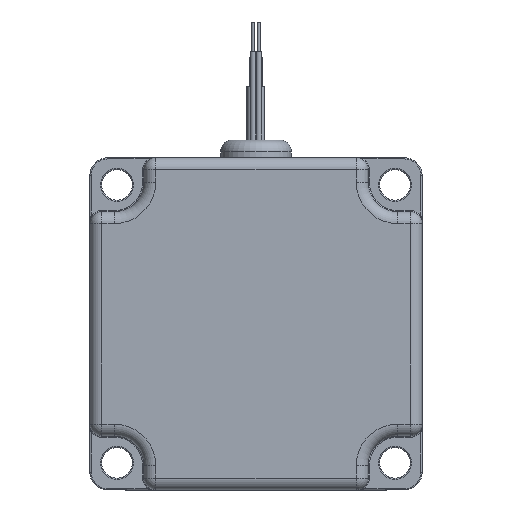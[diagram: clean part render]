
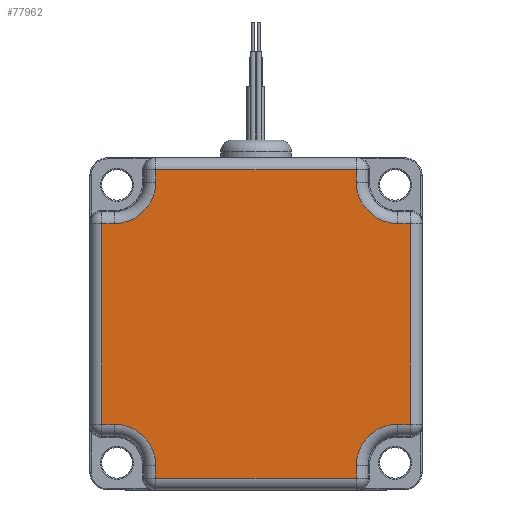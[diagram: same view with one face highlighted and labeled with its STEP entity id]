
A CAD part, front view. The second image highlights one B-rep face of the part: STEP entity #77962.
In plain terms, the highlighted planar face has unit normal (0, -1, 0).
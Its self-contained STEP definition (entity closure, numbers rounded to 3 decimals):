
#1239 = CARTESIAN_POINT ( 'NONE',  ( 24., -40., 24. ) ) ;
#2215 = CARTESIAN_POINT ( 'NONE',  ( -24., -40., 24. ) ) ;
#3699 = VERTEX_POINT ( 'NONE', #106134 ) ;
#3766 = CARTESIAN_POINT ( 'NONE',  ( -24., -40., 17. ) ) ;
#4457 = DIRECTION ( 'NONE',  ( 0., 0., -1. ) ) ;
#6203 = ORIENTED_EDGE ( 'NONE', *, *, #22728, .T. ) ;
#8300 = CARTESIAN_POINT ( 'NONE',  ( -17., -40., -26.15 ) ) ;
#8965 = LINE ( 'NONE', #46673, #77536 ) ;
#9306 = CARTESIAN_POINT ( 'NONE',  ( 17., -40., -24. ) ) ;
#10934 = VERTEX_POINT ( 'NONE', #101563 ) ;
#11448 = ORIENTED_EDGE ( 'NONE', *, *, #32578, .T. ) ;
#12966 = DIRECTION ( 'NONE',  ( 0., 0., -1. ) ) ;
#13184 = ORIENTED_EDGE ( 'NONE', *, *, #59783, .T. ) ;
#13200 = CARTESIAN_POINT ( 'NONE',  ( 0., -40., 17. ) ) ;
#13591 = ORIENTED_EDGE ( 'NONE', *, *, #84511, .T. ) ;
#20584 = VECTOR ( 'NONE', #37488, 1000. ) ;
#20714 = LINE ( 'NONE', #29400, #20584 ) ;
#21165 = VERTEX_POINT ( 'NONE', #50003 ) ;
#21523 = ORIENTED_EDGE ( 'NONE', *, *, #30563, .T. ) ;
#21823 = VERTEX_POINT ( 'NONE', #115056 ) ;
#22587 = CARTESIAN_POINT ( 'NONE',  ( 17., -40., 26.15 ) ) ;
#22612 = CARTESIAN_POINT ( 'NONE',  ( -26.15, -40., -19. ) ) ;
#22728 = EDGE_CURVE ( 'NONE', #21823, #84751, #40372, .T. ) ;
#23062 = VECTOR ( 'NONE', #38076, 1000. ) ;
#24218 = LINE ( 'NONE', #108293, #74361 ) ;
#24456 = ORIENTED_EDGE ( 'NONE', *, *, #64891, .T. ) ;
#24459 = LINE ( 'NONE', #22612, #94677 ) ;
#24666 = ORIENTED_EDGE ( 'NONE', *, *, #103707, .T. ) ;
#24766 = CARTESIAN_POINT ( 'NONE',  ( 0., -40., 26.15 ) ) ;
#25653 = DIRECTION ( 'NONE',  ( 1., 0., 0. ) ) ;
#25832 = VERTEX_POINT ( 'NONE', #32490 ) ;
#26281 = VERTEX_POINT ( 'NONE', #29135 ) ;
#26318 = VERTEX_POINT ( 'NONE', #3766 ) ;
#26774 = LINE ( 'NONE', #64456, #88499 ) ;
#29135 = CARTESIAN_POINT ( 'NONE',  ( -24., -40., -17. ) ) ;
#29400 = CARTESIAN_POINT ( 'NONE',  ( -28.15, -40., 17. ) ) ;
#29911 = EDGE_CURVE ( 'NONE', #90333, #25832, #8965, .T. ) ;
#30563 = EDGE_CURVE ( 'NONE', #52678, #54205, #82205, .T. ) ;
#31050 = DIRECTION ( 'NONE',  ( 0., 0., 1. ) ) ;
#32490 = CARTESIAN_POINT ( 'NONE',  ( 26.15, -40., -17. ) ) ;
#32578 = EDGE_CURVE ( 'NONE', #43717, #61811, #70576, .T. ) ;
#33539 = EDGE_LOOP ( 'NONE', ( #11448, #104695, #6203, #76191, #55131, #13591, #24666, #38568, #38781, #21523, #58843, #13184, #60677, #24456, #99018, #75056 ) ) ;
#35681 = VECTOR ( 'NONE', #70036, 1000. ) ;
#36234 = DIRECTION ( 'NONE',  ( 0., 0., -1. ) ) ;
#37413 = VECTOR ( 'NONE', #31050, 1000. ) ;
#37488 = DIRECTION ( 'NONE',  ( -1., 0., 0. ) ) ;
#38076 = DIRECTION ( 'NONE',  ( 1., 0., 0. ) ) ;
#38568 = ORIENTED_EDGE ( 'NONE', *, *, #111397, .T. ) ;
#38781 = ORIENTED_EDGE ( 'NONE', *, *, #114742, .T. ) ;
#39811 = LINE ( 'NONE', #13200, #35681 ) ;
#40372 = LINE ( 'NONE', #115727, #37413 ) ;
#40639 = AXIS2_PLACEMENT_3D ( 'NONE', #71205, #63086, #4457 ) ;
#41776 = LINE ( 'NONE', #115291, #113330 ) ;
#43717 = VERTEX_POINT ( 'NONE', #48337 ) ;
#44043 = FACE_OUTER_BOUND ( 'NONE', #33539, .T. ) ;
#44599 = CARTESIAN_POINT ( 'NONE',  ( 24., -40., -17. ) ) ;
#44743 = CIRCLE ( 'NONE', #99925, 7. ) ;
#46673 = CARTESIAN_POINT ( 'NONE',  ( 28.15, -40., -17. ) ) ;
#46729 = DIRECTION ( 'NONE',  ( 0., 1., 0. ) ) ;
#46743 = LINE ( 'NONE', #67066, #23062 ) ;
#48337 = CARTESIAN_POINT ( 'NONE',  ( -17., -40., -24. ) ) ;
#49600 = LINE ( 'NONE', #67491, #99461 ) ;
#50003 = CARTESIAN_POINT ( 'NONE',  ( -26.15, -40., 17. ) ) ;
#51885 = DIRECTION ( 'NONE',  ( 0., 1., 0. ) ) ;
#52080 = CARTESIAN_POINT ( 'NONE',  ( -17., -40., 26.15 ) ) ;
#52295 = VECTOR ( 'NONE', #79783, 1000. ) ;
#52678 = VERTEX_POINT ( 'NONE', #22587 ) ;
#53899 = CIRCLE ( 'NONE', #61689, 7. ) ;
#54205 = VERTEX_POINT ( 'NONE', #52080 ) ;
#55131 = ORIENTED_EDGE ( 'NONE', *, *, #29911, .T. ) ;
#55666 = EDGE_CURVE ( 'NONE', #84751, #90333, #96028, .T. ) ;
#58843 = ORIENTED_EDGE ( 'NONE', *, *, #92693, .T. ) ;
#59783 = EDGE_CURVE ( 'NONE', #72451, #26318, #116990, .T. ) ;
#60220 = DIRECTION ( 'NONE',  ( 0., 1., 0. ) ) ;
#60292 = DIRECTION ( 'NONE',  ( 0., 0., -1. ) ) ;
#60677 = ORIENTED_EDGE ( 'NONE', *, *, #61442, .T. ) ;
#61442 = EDGE_CURVE ( 'NONE', #26318, #21165, #20714, .T. ) ;
#61689 = AXIS2_PLACEMENT_3D ( 'NONE', #113605, #66627, #67860 ) ;
#61811 = VERTEX_POINT ( 'NONE', #8300 ) ;
#61860 = DIRECTION ( 'NONE',  ( 0., 0., -1. ) ) ;
#63086 = DIRECTION ( 'NONE',  ( 0., -1., 0. ) ) ;
#64394 = AXIS2_PLACEMENT_3D ( 'NONE', #101753, #46729, #36234 ) ;
#64456 = CARTESIAN_POINT ( 'NONE',  ( 19., -40., -26.15 ) ) ;
#64720 = CARTESIAN_POINT ( 'NONE',  ( 24., -40., 17. ) ) ;
#64891 = EDGE_CURVE ( 'NONE', #21165, #90659, #24459, .T. ) ;
#66627 = DIRECTION ( 'NONE',  ( 0., 1., 0. ) ) ;
#67066 = CARTESIAN_POINT ( 'NONE',  ( 0., -40., -17. ) ) ;
#67361 = CARTESIAN_POINT ( 'NONE',  ( -26.15, -40., -17. ) ) ;
#67491 = CARTESIAN_POINT ( 'NONE',  ( 26.15, -40., 0. ) ) ;
#67860 = DIRECTION ( 'NONE',  ( 0., 0., -1. ) ) ;
#70036 = DIRECTION ( 'NONE',  ( -1., 0., 0. ) ) ;
#70088 = EDGE_CURVE ( 'NONE', #61811, #21823, #26774, .T. ) ;
#70576 = LINE ( 'NONE', #89720, #94230 ) ;
#71205 = CARTESIAN_POINT ( 'NONE',  ( 0., -40., 0. ) ) ;
#72451 = VERTEX_POINT ( 'NONE', #91600 ) ;
#74361 = VECTOR ( 'NONE', #77984, 1000. ) ;
#75048 = VERTEX_POINT ( 'NONE', #64720 ) ;
#75056 = ORIENTED_EDGE ( 'NONE', *, *, #118359, .T. ) ;
#76191 = ORIENTED_EDGE ( 'NONE', *, *, #55666, .T. ) ;
#77397 = AXIS2_PLACEMENT_3D ( 'NONE', #2215, #60220, #107870 ) ;
#77536 = VECTOR ( 'NONE', #25653, 1000. ) ;
#77962 = ADVANCED_FACE ( 'NONE', ( #44043 ), #91564, .T. ) ;
#77984 = DIRECTION ( 'NONE',  ( 0., 0., 1. ) ) ;
#79783 = DIRECTION ( 'NONE',  ( -1., 0., 0. ) ) ;
#82205 = LINE ( 'NONE', #24766, #52295 ) ;
#84511 = EDGE_CURVE ( 'NONE', #25832, #10934, #49600, .T. ) ;
#84751 = VERTEX_POINT ( 'NONE', #9306 ) ;
#88499 = VECTOR ( 'NONE', #102190, 1000. ) ;
#89720 = CARTESIAN_POINT ( 'NONE',  ( -17., -40., -28.15 ) ) ;
#90333 = VERTEX_POINT ( 'NONE', #44599 ) ;
#90659 = VERTEX_POINT ( 'NONE', #67361 ) ;
#91564 = PLANE ( 'NONE',  #40639 ) ;
#91600 = CARTESIAN_POINT ( 'NONE',  ( -17., -40., 24. ) ) ;
#92693 = EDGE_CURVE ( 'NONE', #54205, #72451, #41776, .T. ) ;
#94230 = VECTOR ( 'NONE', #61860, 1000. ) ;
#94677 = VECTOR ( 'NONE', #60292, 1000. ) ;
#94703 = EDGE_CURVE ( 'NONE', #90659, #26281, #46743, .T. ) ;
#96028 = CIRCLE ( 'NONE', #64394, 7. ) ;
#96142 = DIRECTION ( 'NONE',  ( 0., 0., -1. ) ) ;
#99018 = ORIENTED_EDGE ( 'NONE', *, *, #94703, .T. ) ;
#99461 = VECTOR ( 'NONE', #115078, 1000. ) ;
#99925 = AXIS2_PLACEMENT_3D ( 'NONE', #1239, #51885, #12966 ) ;
#101563 = CARTESIAN_POINT ( 'NONE',  ( 26.15, -40., 17. ) ) ;
#101753 = CARTESIAN_POINT ( 'NONE',  ( 24., -40., -24. ) ) ;
#102190 = DIRECTION ( 'NONE',  ( 1., 0., 0. ) ) ;
#103707 = EDGE_CURVE ( 'NONE', #10934, #75048, #39811, .T. ) ;
#104695 = ORIENTED_EDGE ( 'NONE', *, *, #70088, .T. ) ;
#106134 = CARTESIAN_POINT ( 'NONE',  ( 17., -40., 24. ) ) ;
#107870 = DIRECTION ( 'NONE',  ( 0., 0., -1. ) ) ;
#108293 = CARTESIAN_POINT ( 'NONE',  ( 17., -40., 28.15 ) ) ;
#111397 = EDGE_CURVE ( 'NONE', #75048, #3699, #44743, .T. ) ;
#113330 = VECTOR ( 'NONE', #96142, 1000. ) ;
#113605 = CARTESIAN_POINT ( 'NONE',  ( -24., -40., -24. ) ) ;
#114742 = EDGE_CURVE ( 'NONE', #3699, #52678, #24218, .T. ) ;
#115056 = CARTESIAN_POINT ( 'NONE',  ( 17., -40., -26.15 ) ) ;
#115078 = DIRECTION ( 'NONE',  ( 0., 0., 1. ) ) ;
#115291 = CARTESIAN_POINT ( 'NONE',  ( -17., -40., 0. ) ) ;
#115727 = CARTESIAN_POINT ( 'NONE',  ( 17., -40., 0. ) ) ;
#116990 = CIRCLE ( 'NONE', #77397, 7. ) ;
#118359 = EDGE_CURVE ( 'NONE', #26281, #43717, #53899, .T. ) ;
